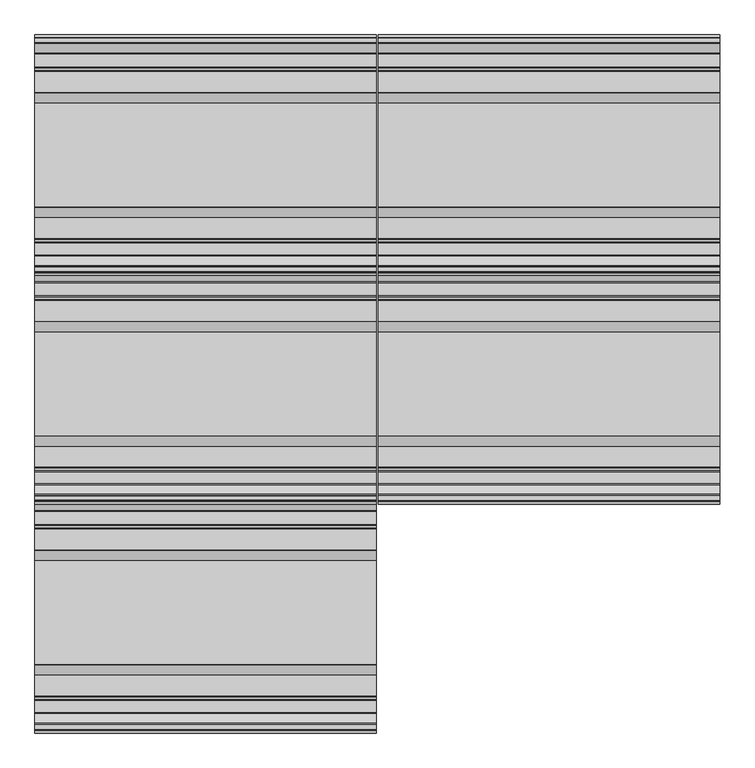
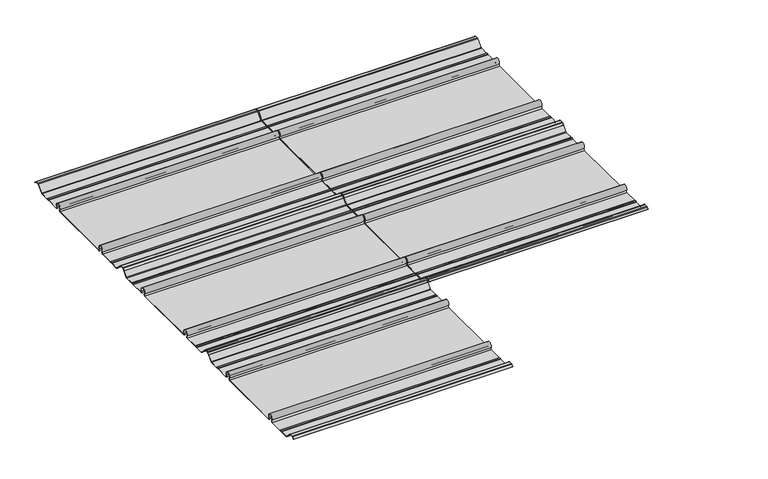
"""IFC4 building model written with IfcOpenShell, lengths in millimetres: proxy geometry, Xlath : Xlath."""

from ifc_helpers import new_model, si_unit, point, frame, frame_2d, origin, place, context, project, spatial, polyline, circle_curve, trimmed, segment, composite_curve, outline, extrude, source, transform, mapped, element, save


def generic_models_b2bb9b70(model_context):
    return source(origin(), model_context, "Body", "SweptSolid", [
        extrude(outline(composite_curve([segment(polyline([(-2848.821536, 17.692427), (-2844.8, 13.8209287), (-2845.3628134, 13.2581153), (-2849.6173305, 17.3539026)]), True, "CONTINUOUS"), segment(trimmed(circle_curve(frame_2d((-2851.4934261, 15.4051)), 2.7051), [point((-2849.6173305, 17.3539026))], [point((-2851.4934261, 18.1102))], True, "CARTESIAN"), True, "CONTINUOUS"), segment(polyline([(-2851.4934261, 18.1102), (-2858.6817457, 18.1102)]), True, "CONTINUOUS"), segment(trimmed(circle_curve(frame_2d((-2858.6817457, 15.4051)), 2.7051), [point((-2858.6817457, 18.1102))], [point((-2860.6059623, 17.3064039))], True, "CARTESIAN"), True, "CONTINUOUS"), segment(polyline([(-2860.6059623, 17.3064039), (-2876.7741011, 0.9434226)]), True, "CONTINUOUS"), segment(trimmed(circle_curve(frame_2d((-2879.0325712, 3.175)), 3.175), [point((-2876.7741011, 0.9434226))], [point((-2879.0325712, 0.0))], False, "CARTESIAN"), True, "CONTINUOUS"), segment(polyline([(-2879.0325712, 0.0), (-2902.1486405, 0.0)]), True, "CONTINUOUS"), segment(trimmed(circle_curve(frame_2d((-2902.1486405, 3.175)), 3.175), [point((-2902.1486405, 0.0))], [point((-2904.1419174, 0.70367))], False, "CARTESIAN"), True, "CONTINUOUS"), segment(trimmed(circle_curve(frame_2d((-2906.1351943, -1.7676601)), 3.175), [point((-2904.1419174, 0.70367))], [point((-2908.1284712, 0.70367))], True, "CARTESIAN"), True, "CONTINUOUS"), segment(trimmed(circle_curve(frame_2d((-2910.1217481, 3.175)), 3.175), [point((-2908.1284712, 0.70367))], [point((-2910.1217481, 0.0))], False, "CARTESIAN"), True, "CONTINUOUS"), segment(polyline([(-2910.1217481, 0.0), (-2947.39972, 0.0)]), True, "CONTINUOUS"), segment(trimmed(circle_curve(frame_2d((-2947.39972, 3.3362305)), 3.3362305), [point((-2947.39972, 0.0))], [point((-2950.0911698, 5.3076593))], False, "CARTESIAN"), True, "CONTINUOUS"), segment(trimmed(circle_curve(frame_2d((-2956.6031627, 10.0775533)), 8.0720469), [point((-2950.0911698, 5.3076593))], [point((-2963.1151555, 5.3076593))], True, "CARTESIAN"), True, "CONTINUOUS"), segment(trimmed(circle_curve(frame_2d((-2965.8066054, 3.3362305)), 3.3362305), [point((-2963.1151555, 5.3076593))], [point((-2965.8066054, 0.0))], False, "CARTESIAN"), True, "CONTINUOUS"), segment(polyline([(-2965.8066054, 0.0), (-3150.8308946, 0.0)]), True, "CONTINUOUS"), segment(trimmed(circle_curve(frame_2d((-3150.8308946, 3.3362305)), 3.3362305), [point((-3150.8308946, 0.0))], [point((-3153.5223445, 5.3076593))], False, "CARTESIAN"), True, "CONTINUOUS"), segment(trimmed(circle_curve(frame_2d((-3160.0343373, 10.0775533)), 8.0720469), [point((-3153.5223445, 5.3076593))], [point((-3166.5463302, 5.3076593))], True, "CARTESIAN"), True, "CONTINUOUS"), segment(trimmed(circle_curve(frame_2d((-3169.23778, 3.3362305)), 3.3362305), [point((-3166.5463302, 5.3076593))], [point((-3169.23778, 0.0))], False, "CARTESIAN"), True, "CONTINUOUS"), segment(polyline([(-3169.23778, 0.0), (-3206.5157519, 0.0)]), True, "CONTINUOUS"), segment(trimmed(circle_curve(frame_2d((-3206.5157519, 3.175)), 3.175), [point((-3206.5157519, 0.0))], [point((-3208.5090288, 0.70367))], False, "CARTESIAN"), True, "CONTINUOUS"), segment(trimmed(circle_curve(frame_2d((-3210.5023057, -1.7676601)), 3.175), [point((-3208.5090288, 0.70367))], [point((-3212.4955826, 0.70367))], True, "CARTESIAN"), True, "CONTINUOUS"), segment(trimmed(circle_curve(frame_2d((-3214.4888595, 3.175)), 3.175), [point((-3212.4955826, 0.70367))], [point((-3214.4888595, 0.0))], False, "CARTESIAN"), True, "CONTINUOUS"), segment(polyline([(-3214.4888595, 0.0), (-3235.8183557, 0.0)]), True, "CONTINUOUS"), segment(trimmed(circle_curve(frame_2d((-3235.8183557, 3.175)), 3.175), [point((-3235.8183557, 0.0))], [point((-3238.0768259, 0.9434226))], False, "CARTESIAN"), True, "CONTINUOUS"), segment(polyline([(-3238.0768259, 0.9434226), (-3254.7092693, 17.7763039)]), True, "CONTINUOUS"), segment(trimmed(circle_curve(frame_2d((-3256.6334859, 15.875)), 2.7051), [point((-3254.7092693, 17.7763039))], [point((-3256.6334859, 18.5801))], True, "CARTESIAN"), True, "CONTINUOUS"), segment(polyline([(-3256.6334859, 18.5801), (-3265.1440739, 18.5801)]), True, "CONTINUOUS"), segment(trimmed(circle_curve(frame_2d((-3265.1440739, 15.875)), 2.7051), [point((-3265.1440739, 18.5801))], [point((-3267.0201695, 17.8238026))], True, "CARTESIAN"), True, "CONTINUOUS"), segment(polyline([(-3267.0201695, 17.8238026), (-3271.2855845, 13.717524), (-3271.8483979, 14.2803374), (-3267.815964, 18.162327)]), True, "CONTINUOUS"), segment(trimmed(circle_curve(frame_2d((-3265.6139739, 15.875)), 3.175), [point((-3267.815964, 18.162327))], [point((-3265.6139739, 19.05))], False, "CARTESIAN"), True, "CONTINUOUS"), segment(polyline([(-3265.6139739, 19.05), (-3256.6334859, 19.05)]), True, "CONTINUOUS"), segment(trimmed(circle_curve(frame_2d((-3256.6334859, 15.875)), 3.175), [point((-3256.6334859, 19.05))], [point((-3254.3750157, 18.1065774))], False, "CARTESIAN"), True, "CONTINUOUS"), segment(polyline([(-3254.3750157, 18.1065774), (-3237.7425723, 1.2736961)]), True, "CONTINUOUS"), segment(trimmed(circle_curve(frame_2d((-3235.8183557, 3.175)), 2.7051), [point((-3237.7425723, 1.2736961))], [point((-3235.8183557, 0.4699))], True, "CARTESIAN"), True, "CONTINUOUS"), segment(polyline([(-3235.8183557, 0.4699), (-3214.6514296, 0.4699)]), True, "CONTINUOUS"), segment(trimmed(circle_curve(frame_2d((-3214.6514296, 3.6449)), 3.175), [point((-3214.6514296, 0.4699))], [point((-3212.7198077, 1.1250862))], True, "CARTESIAN"), True, "CONTINUOUS"), segment(trimmed(circle_curve(frame_2d((-3210.5023057, -1.7676601)), 3.6449), [point((-3212.7198077, 1.1250862))], [point((-3208.2848037, 1.1250862))], False, "CARTESIAN"), True, "CONTINUOUS"), segment(trimmed(circle_curve(frame_2d((-3206.3531818, 3.6449)), 3.175), [point((-3208.2848037, 1.1250862))], [point((-3206.3531818, 0.4699))], True, "CARTESIAN"), True, "CONTINUOUS"), segment(polyline([(-3206.3531818, 0.4699), (-3169.23778, 0.4699)]), True, "CONTINUOUS"), segment(trimmed(circle_curve(frame_2d((-3169.23778, 3.3362305)), 2.8663305), [point((-3169.23778, 0.4699))], [point((-3166.9254144, 5.0299883))], True, "CARTESIAN"), True, "CONTINUOUS"), segment(trimmed(circle_curve(frame_2d((-3160.0343373, 10.0775533)), 8.5419469), [point((-3166.9254144, 5.0299883))], [point((-3153.1432603, 5.0299883))], False, "CARTESIAN"), True, "CONTINUOUS"), segment(trimmed(circle_curve(frame_2d((-3150.8308946, 3.3362305)), 2.8663305), [point((-3153.1432603, 5.0299883))], [point((-3150.8308946, 0.4699))], True, "CARTESIAN"), True, "CONTINUOUS"), segment(polyline([(-3150.8308946, 0.4699), (-2965.8066054, 0.4699)]), True, "CONTINUOUS"), segment(trimmed(circle_curve(frame_2d((-2965.8066054, 3.3362305)), 2.8663305), [point((-2965.8066054, 0.4699))], [point((-2963.4942397, 5.0299883))], True, "CARTESIAN"), True, "CONTINUOUS"), segment(trimmed(circle_curve(frame_2d((-2956.6031627, 10.0775533)), 8.5419469), [point((-2963.4942397, 5.0299883))], [point((-2949.7120856, 5.0299883))], False, "CARTESIAN"), True, "CONTINUOUS"), segment(trimmed(circle_curve(frame_2d((-2947.39972, 3.3362305)), 2.8663305), [point((-2949.7120856, 5.0299883))], [point((-2947.39972, 0.4699))], True, "CARTESIAN"), True, "CONTINUOUS"), segment(polyline([(-2947.39972, 0.4699), (-2910.2843182, 0.4699)]), True, "CONTINUOUS"), segment(trimmed(circle_curve(frame_2d((-2910.2843182, 3.6449)), 3.175), [point((-2910.2843182, 0.4699))], [point((-2908.3526963, 1.1250862))], True, "CARTESIAN"), True, "CONTINUOUS"), segment(trimmed(circle_curve(frame_2d((-2906.1351943, -1.7676601)), 3.6449), [point((-2908.3526963, 1.1250862))], [point((-2903.9176923, 1.1250862))], False, "CARTESIAN"), True, "CONTINUOUS"), segment(trimmed(circle_curve(frame_2d((-2901.9860704, 3.6449)), 3.175), [point((-2903.9176923, 1.1250862))], [point((-2901.9860704, 0.4699))], True, "CARTESIAN"), True, "CONTINUOUS"), segment(polyline([(-2901.9860704, 0.4699), (-2879.0325712, 0.4699)]), True, "CONTINUOUS"), segment(trimmed(circle_curve(frame_2d((-2879.0325712, 3.175)), 2.7051), [point((-2879.0325712, 0.4699))], [point((-2877.1083547, 1.2736961))], True, "CARTESIAN"), True, "CONTINUOUS"), segment(polyline([(-2877.1083547, 1.2736961), (-2860.9402159, 17.6366774)]), True, "CONTINUOUS"), segment(trimmed(circle_curve(frame_2d((-2858.6817457, 15.4051)), 3.175), [point((-2860.9402159, 17.6366774))], [point((-2858.6817457, 18.5801))], False, "CARTESIAN"), True, "CONTINUOUS"), segment(polyline([(-2858.6817457, 18.5801), (-2851.0235261, 18.5801)]), True, "CONTINUOUS"), segment(trimmed(circle_curve(frame_2d((-2851.0235261, 15.4051)), 3.175), [point((-2851.0235261, 18.5801))], [point((-2848.821536, 17.692427))], False, "CARTESIAN"), True, "CONTINUOUS")], self_intersect=False)), frame((0.0, 0.0, 0.0), z_axis=(1.0, 0.0, 0.0), x_axis=(0.0, 1.0, 0.0)), (0.0, 0.0, 1.0), 606.425),
        extrude(outline(composite_curve([segment(polyline([(-2442.421536, 17.692427), (-2438.4, 13.8209287), (-2438.9628134, 13.2581153), (-2443.2173305, 17.3539026)]), True, "CONTINUOUS"), segment(trimmed(circle_curve(frame_2d((-2445.0934261, 15.4051)), 2.7051), [point((-2443.2173305, 17.3539026))], [point((-2445.0934261, 18.1102))], True, "CARTESIAN"), True, "CONTINUOUS"), segment(polyline([(-2445.0934261, 18.1102), (-2452.2817457, 18.1102)]), True, "CONTINUOUS"), segment(trimmed(circle_curve(frame_2d((-2452.2817457, 15.4051)), 2.7051), [point((-2452.2817457, 18.1102))], [point((-2454.2059623, 17.3064039))], True, "CARTESIAN"), True, "CONTINUOUS"), segment(polyline([(-2454.2059623, 17.3064039), (-2470.3741011, 0.9434226)]), True, "CONTINUOUS"), segment(trimmed(circle_curve(frame_2d((-2472.6325712, 3.175)), 3.175), [point((-2470.3741011, 0.9434226))], [point((-2472.6325712, 0.0))], False, "CARTESIAN"), True, "CONTINUOUS"), segment(polyline([(-2472.6325712, 0.0), (-2495.7486405, 0.0)]), True, "CONTINUOUS"), segment(trimmed(circle_curve(frame_2d((-2495.7486405, 3.175)), 3.175), [point((-2495.7486405, 0.0))], [point((-2497.7419174, 0.70367))], False, "CARTESIAN"), True, "CONTINUOUS"), segment(trimmed(circle_curve(frame_2d((-2499.7351943, -1.7676601)), 3.175), [point((-2497.7419174, 0.70367))], [point((-2501.7284712, 0.70367))], True, "CARTESIAN"), True, "CONTINUOUS"), segment(trimmed(circle_curve(frame_2d((-2503.7217481, 3.175)), 3.175), [point((-2501.7284712, 0.70367))], [point((-2503.7217481, 0.0))], False, "CARTESIAN"), True, "CONTINUOUS"), segment(polyline([(-2503.7217481, 0.0), (-2540.99972, 0.0)]), True, "CONTINUOUS"), segment(trimmed(circle_curve(frame_2d((-2540.99972, 3.3362305)), 3.3362305), [point((-2540.99972, 0.0))], [point((-2543.6911698, 5.3076593))], False, "CARTESIAN"), True, "CONTINUOUS"), segment(trimmed(circle_curve(frame_2d((-2550.2031627, 10.0775533)), 8.0720469), [point((-2543.6911698, 5.3076593))], [point((-2556.7151555, 5.3076593))], True, "CARTESIAN"), True, "CONTINUOUS"), segment(trimmed(circle_curve(frame_2d((-2559.4066054, 3.3362305)), 3.3362305), [point((-2556.7151555, 5.3076593))], [point((-2559.4066054, 0.0))], False, "CARTESIAN"), True, "CONTINUOUS"), segment(polyline([(-2559.4066054, 0.0), (-2744.4308946, 0.0)]), True, "CONTINUOUS"), segment(trimmed(circle_curve(frame_2d((-2744.4308946, 3.3362305)), 3.3362305), [point((-2744.4308946, 0.0))], [point((-2747.1223445, 5.3076593))], False, "CARTESIAN"), True, "CONTINUOUS"), segment(trimmed(circle_curve(frame_2d((-2753.6343373, 10.0775533)), 8.0720469), [point((-2747.1223445, 5.3076593))], [point((-2760.1463302, 5.3076593))], True, "CARTESIAN"), True, "CONTINUOUS"), segment(trimmed(circle_curve(frame_2d((-2762.83778, 3.3362305)), 3.3362305), [point((-2760.1463302, 5.3076593))], [point((-2762.83778, 0.0))], False, "CARTESIAN"), True, "CONTINUOUS"), segment(polyline([(-2762.83778, 0.0), (-2800.1157519, 0.0)]), True, "CONTINUOUS"), segment(trimmed(circle_curve(frame_2d((-2800.1157519, 3.175)), 3.175), [point((-2800.1157519, 0.0))], [point((-2802.1090288, 0.70367))], False, "CARTESIAN"), True, "CONTINUOUS"), segment(trimmed(circle_curve(frame_2d((-2804.1023057, -1.7676601)), 3.175), [point((-2802.1090288, 0.70367))], [point((-2806.0955826, 0.70367))], True, "CARTESIAN"), True, "CONTINUOUS"), segment(trimmed(circle_curve(frame_2d((-2808.0888595, 3.175)), 3.175), [point((-2806.0955826, 0.70367))], [point((-2808.0888595, 0.0))], False, "CARTESIAN"), True, "CONTINUOUS"), segment(polyline([(-2808.0888595, 0.0), (-2829.4183557, 0.0)]), True, "CONTINUOUS"), segment(trimmed(circle_curve(frame_2d((-2829.4183557, 3.175)), 3.175), [point((-2829.4183557, 0.0))], [point((-2831.6768259, 0.9434226))], False, "CARTESIAN"), True, "CONTINUOUS"), segment(polyline([(-2831.6768259, 0.9434226), (-2848.3092693, 17.7763039)]), True, "CONTINUOUS"), segment(trimmed(circle_curve(frame_2d((-2850.2334859, 15.875)), 2.7051), [point((-2848.3092693, 17.7763039))], [point((-2850.2334859, 18.5801))], True, "CARTESIAN"), True, "CONTINUOUS"), segment(polyline([(-2850.2334859, 18.5801), (-2858.7440739, 18.5801)]), True, "CONTINUOUS"), segment(trimmed(circle_curve(frame_2d((-2858.7440739, 15.875)), 2.7051), [point((-2858.7440739, 18.5801))], [point((-2860.6201695, 17.8238026))], True, "CARTESIAN"), True, "CONTINUOUS"), segment(polyline([(-2860.6201695, 17.8238026), (-2864.8855845, 13.717524), (-2865.4483979, 14.2803374), (-2861.415964, 18.162327)]), True, "CONTINUOUS"), segment(trimmed(circle_curve(frame_2d((-2859.2139739, 15.875)), 3.175), [point((-2861.415964, 18.162327))], [point((-2859.2139739, 19.05))], False, "CARTESIAN"), True, "CONTINUOUS"), segment(polyline([(-2859.2139739, 19.05), (-2850.2334859, 19.05)]), True, "CONTINUOUS"), segment(trimmed(circle_curve(frame_2d((-2850.2334859, 15.875)), 3.175), [point((-2850.2334859, 19.05))], [point((-2847.9750157, 18.1065774))], False, "CARTESIAN"), True, "CONTINUOUS"), segment(polyline([(-2847.9750157, 18.1065774), (-2831.3425723, 1.2736961)]), True, "CONTINUOUS"), segment(trimmed(circle_curve(frame_2d((-2829.4183557, 3.175)), 2.7051), [point((-2831.3425723, 1.2736961))], [point((-2829.4183557, 0.4699))], True, "CARTESIAN"), True, "CONTINUOUS"), segment(polyline([(-2829.4183557, 0.4699), (-2808.2514296, 0.4699)]), True, "CONTINUOUS"), segment(trimmed(circle_curve(frame_2d((-2808.2514296, 3.6449)), 3.175), [point((-2808.2514296, 0.4699))], [point((-2806.3198077, 1.1250862))], True, "CARTESIAN"), True, "CONTINUOUS"), segment(trimmed(circle_curve(frame_2d((-2804.1023057, -1.7676601)), 3.6449), [point((-2806.3198077, 1.1250862))], [point((-2801.8848037, 1.1250862))], False, "CARTESIAN"), True, "CONTINUOUS"), segment(trimmed(circle_curve(frame_2d((-2799.9531818, 3.6449)), 3.175), [point((-2801.8848037, 1.1250862))], [point((-2799.9531818, 0.4699))], True, "CARTESIAN"), True, "CONTINUOUS"), segment(polyline([(-2799.9531818, 0.4699), (-2762.83778, 0.4699)]), True, "CONTINUOUS"), segment(trimmed(circle_curve(frame_2d((-2762.83778, 3.3362305)), 2.8663305), [point((-2762.83778, 0.4699))], [point((-2760.5254144, 5.0299883))], True, "CARTESIAN"), True, "CONTINUOUS"), segment(trimmed(circle_curve(frame_2d((-2753.6343373, 10.0775533)), 8.5419469), [point((-2760.5254144, 5.0299883))], [point((-2746.7432603, 5.0299883))], False, "CARTESIAN"), True, "CONTINUOUS"), segment(trimmed(circle_curve(frame_2d((-2744.4308946, 3.3362305)), 2.8663305), [point((-2746.7432603, 5.0299883))], [point((-2744.4308946, 0.4699))], True, "CARTESIAN"), True, "CONTINUOUS"), segment(polyline([(-2744.4308946, 0.4699), (-2559.4066054, 0.4699)]), True, "CONTINUOUS"), segment(trimmed(circle_curve(frame_2d((-2559.4066054, 3.3362305)), 2.8663305), [point((-2559.4066054, 0.4699))], [point((-2557.0942397, 5.0299883))], True, "CARTESIAN"), True, "CONTINUOUS"), segment(trimmed(circle_curve(frame_2d((-2550.2031627, 10.0775533)), 8.5419469), [point((-2557.0942397, 5.0299883))], [point((-2543.3120856, 5.0299883))], False, "CARTESIAN"), True, "CONTINUOUS"), segment(trimmed(circle_curve(frame_2d((-2540.99972, 3.3362305)), 2.8663305), [point((-2543.3120856, 5.0299883))], [point((-2540.99972, 0.4699))], True, "CARTESIAN"), True, "CONTINUOUS"), segment(polyline([(-2540.99972, 0.4699), (-2503.8843182, 0.4699)]), True, "CONTINUOUS"), segment(trimmed(circle_curve(frame_2d((-2503.8843182, 3.6449)), 3.175), [point((-2503.8843182, 0.4699))], [point((-2501.9526963, 1.1250862))], True, "CARTESIAN"), True, "CONTINUOUS"), segment(trimmed(circle_curve(frame_2d((-2499.7351943, -1.7676601)), 3.6449), [point((-2501.9526963, 1.1250862))], [point((-2497.5176923, 1.1250862))], False, "CARTESIAN"), True, "CONTINUOUS"), segment(trimmed(circle_curve(frame_2d((-2495.5860704, 3.6449)), 3.175), [point((-2497.5176923, 1.1250862))], [point((-2495.5860704, 0.4699))], True, "CARTESIAN"), True, "CONTINUOUS"), segment(polyline([(-2495.5860704, 0.4699), (-2472.6325712, 0.4699)]), True, "CONTINUOUS"), segment(trimmed(circle_curve(frame_2d((-2472.6325712, 3.175)), 2.7051), [point((-2472.6325712, 0.4699))], [point((-2470.7083547, 1.2736961))], True, "CARTESIAN"), True, "CONTINUOUS"), segment(polyline([(-2470.7083547, 1.2736961), (-2454.5402159, 17.6366774)]), True, "CONTINUOUS"), segment(trimmed(circle_curve(frame_2d((-2452.2817457, 15.4051)), 3.175), [point((-2454.5402159, 17.6366774))], [point((-2452.2817457, 18.5801))], False, "CARTESIAN"), True, "CONTINUOUS"), segment(polyline([(-2452.2817457, 18.5801), (-2444.6235261, 18.5801)]), True, "CONTINUOUS"), segment(trimmed(circle_curve(frame_2d((-2444.6235261, 15.4051)), 3.175), [point((-2444.6235261, 18.5801))], [point((-2442.421536, 17.692427))], False, "CARTESIAN"), True, "CONTINUOUS")], self_intersect=False)), frame((609.6, 0.0, 0.0), z_axis=(1.0, 0.0, 0.0), x_axis=(0.0, 1.0, 0.0)), (0.0, 0.0, 1.0), 606.425),
        extrude(outline(composite_curve([segment(polyline([(-2442.421536, 17.692427), (-2438.4, 13.8209287), (-2438.9628134, 13.2581153), (-2443.2173305, 17.3539026)]), True, "CONTINUOUS"), segment(trimmed(circle_curve(frame_2d((-2445.0934261, 15.4051)), 2.7051), [point((-2443.2173305, 17.3539026))], [point((-2445.0934261, 18.1102))], True, "CARTESIAN"), True, "CONTINUOUS"), segment(polyline([(-2445.0934261, 18.1102), (-2452.2817457, 18.1102)]), True, "CONTINUOUS"), segment(trimmed(circle_curve(frame_2d((-2452.2817457, 15.4051)), 2.7051), [point((-2452.2817457, 18.1102))], [point((-2454.2059623, 17.3064039))], True, "CARTESIAN"), True, "CONTINUOUS"), segment(polyline([(-2454.2059623, 17.3064039), (-2470.3741011, 0.9434226)]), True, "CONTINUOUS"), segment(trimmed(circle_curve(frame_2d((-2472.6325712, 3.175)), 3.175), [point((-2470.3741011, 0.9434226))], [point((-2472.6325712, 0.0))], False, "CARTESIAN"), True, "CONTINUOUS"), segment(polyline([(-2472.6325712, 0.0), (-2495.7486405, 0.0)]), True, "CONTINUOUS"), segment(trimmed(circle_curve(frame_2d((-2495.7486405, 3.175)), 3.175), [point((-2495.7486405, 0.0))], [point((-2497.7419174, 0.70367))], False, "CARTESIAN"), True, "CONTINUOUS"), segment(trimmed(circle_curve(frame_2d((-2499.7351943, -1.7676601)), 3.175), [point((-2497.7419174, 0.70367))], [point((-2501.7284712, 0.70367))], True, "CARTESIAN"), True, "CONTINUOUS"), segment(trimmed(circle_curve(frame_2d((-2503.7217481, 3.175)), 3.175), [point((-2501.7284712, 0.70367))], [point((-2503.7217481, 0.0))], False, "CARTESIAN"), True, "CONTINUOUS"), segment(polyline([(-2503.7217481, 0.0), (-2540.99972, 0.0)]), True, "CONTINUOUS"), segment(trimmed(circle_curve(frame_2d((-2540.99972, 3.3362305)), 3.3362305), [point((-2540.99972, 0.0))], [point((-2543.6911698, 5.3076593))], False, "CARTESIAN"), True, "CONTINUOUS"), segment(trimmed(circle_curve(frame_2d((-2550.2031627, 10.0775533)), 8.0720469), [point((-2543.6911698, 5.3076593))], [point((-2556.7151555, 5.3076593))], True, "CARTESIAN"), True, "CONTINUOUS"), segment(trimmed(circle_curve(frame_2d((-2559.4066054, 3.3362305)), 3.3362305), [point((-2556.7151555, 5.3076593))], [point((-2559.4066054, 0.0))], False, "CARTESIAN"), True, "CONTINUOUS"), segment(polyline([(-2559.4066054, 0.0), (-2744.4308946, 0.0)]), True, "CONTINUOUS"), segment(trimmed(circle_curve(frame_2d((-2744.4308946, 3.3362305)), 3.3362305), [point((-2744.4308946, 0.0))], [point((-2747.1223445, 5.3076593))], False, "CARTESIAN"), True, "CONTINUOUS"), segment(trimmed(circle_curve(frame_2d((-2753.6343373, 10.0775533)), 8.0720469), [point((-2747.1223445, 5.3076593))], [point((-2760.1463302, 5.3076593))], True, "CARTESIAN"), True, "CONTINUOUS"), segment(trimmed(circle_curve(frame_2d((-2762.83778, 3.3362305)), 3.3362305), [point((-2760.1463302, 5.3076593))], [point((-2762.83778, 0.0))], False, "CARTESIAN"), True, "CONTINUOUS"), segment(polyline([(-2762.83778, 0.0), (-2800.1157519, 0.0)]), True, "CONTINUOUS"), segment(trimmed(circle_curve(frame_2d((-2800.1157519, 3.175)), 3.175), [point((-2800.1157519, 0.0))], [point((-2802.1090288, 0.70367))], False, "CARTESIAN"), True, "CONTINUOUS"), segment(trimmed(circle_curve(frame_2d((-2804.1023057, -1.7676601)), 3.175), [point((-2802.1090288, 0.70367))], [point((-2806.0955826, 0.70367))], True, "CARTESIAN"), True, "CONTINUOUS"), segment(trimmed(circle_curve(frame_2d((-2808.0888595, 3.175)), 3.175), [point((-2806.0955826, 0.70367))], [point((-2808.0888595, 0.0))], False, "CARTESIAN"), True, "CONTINUOUS"), segment(polyline([(-2808.0888595, 0.0), (-2829.4183557, 0.0)]), True, "CONTINUOUS"), segment(trimmed(circle_curve(frame_2d((-2829.4183557, 3.175)), 3.175), [point((-2829.4183557, 0.0))], [point((-2831.6768259, 0.9434226))], False, "CARTESIAN"), True, "CONTINUOUS"), segment(polyline([(-2831.6768259, 0.9434226), (-2848.3092693, 17.7763039)]), True, "CONTINUOUS"), segment(trimmed(circle_curve(frame_2d((-2850.2334859, 15.875)), 2.7051), [point((-2848.3092693, 17.7763039))], [point((-2850.2334859, 18.5801))], True, "CARTESIAN"), True, "CONTINUOUS"), segment(polyline([(-2850.2334859, 18.5801), (-2858.7440739, 18.5801)]), True, "CONTINUOUS"), segment(trimmed(circle_curve(frame_2d((-2858.7440739, 15.875)), 2.7051), [point((-2858.7440739, 18.5801))], [point((-2860.6201695, 17.8238026))], True, "CARTESIAN"), True, "CONTINUOUS"), segment(polyline([(-2860.6201695, 17.8238026), (-2864.8855845, 13.717524), (-2865.4483979, 14.2803374), (-2861.415964, 18.162327)]), True, "CONTINUOUS"), segment(trimmed(circle_curve(frame_2d((-2859.2139739, 15.875)), 3.175), [point((-2861.415964, 18.162327))], [point((-2859.2139739, 19.05))], False, "CARTESIAN"), True, "CONTINUOUS"), segment(polyline([(-2859.2139739, 19.05), (-2850.2334859, 19.05)]), True, "CONTINUOUS"), segment(trimmed(circle_curve(frame_2d((-2850.2334859, 15.875)), 3.175), [point((-2850.2334859, 19.05))], [point((-2847.9750157, 18.1065774))], False, "CARTESIAN"), True, "CONTINUOUS"), segment(polyline([(-2847.9750157, 18.1065774), (-2831.3425723, 1.2736961)]), True, "CONTINUOUS"), segment(trimmed(circle_curve(frame_2d((-2829.4183557, 3.175)), 2.7051), [point((-2831.3425723, 1.2736961))], [point((-2829.4183557, 0.4699))], True, "CARTESIAN"), True, "CONTINUOUS"), segment(polyline([(-2829.4183557, 0.4699), (-2808.2514296, 0.4699)]), True, "CONTINUOUS"), segment(trimmed(circle_curve(frame_2d((-2808.2514296, 3.6449)), 3.175), [point((-2808.2514296, 0.4699))], [point((-2806.3198077, 1.1250862))], True, "CARTESIAN"), True, "CONTINUOUS"), segment(trimmed(circle_curve(frame_2d((-2804.1023057, -1.7676601)), 3.6449), [point((-2806.3198077, 1.1250862))], [point((-2801.8848037, 1.1250862))], False, "CARTESIAN"), True, "CONTINUOUS"), segment(trimmed(circle_curve(frame_2d((-2799.9531818, 3.6449)), 3.175), [point((-2801.8848037, 1.1250862))], [point((-2799.9531818, 0.4699))], True, "CARTESIAN"), True, "CONTINUOUS"), segment(polyline([(-2799.9531818, 0.4699), (-2762.83778, 0.4699)]), True, "CONTINUOUS"), segment(trimmed(circle_curve(frame_2d((-2762.83778, 3.3362305)), 2.8663305), [point((-2762.83778, 0.4699))], [point((-2760.5254144, 5.0299883))], True, "CARTESIAN"), True, "CONTINUOUS"), segment(trimmed(circle_curve(frame_2d((-2753.6343373, 10.0775533)), 8.5419469), [point((-2760.5254144, 5.0299883))], [point((-2746.7432603, 5.0299883))], False, "CARTESIAN"), True, "CONTINUOUS"), segment(trimmed(circle_curve(frame_2d((-2744.4308946, 3.3362305)), 2.8663305), [point((-2746.7432603, 5.0299883))], [point((-2744.4308946, 0.4699))], True, "CARTESIAN"), True, "CONTINUOUS"), segment(polyline([(-2744.4308946, 0.4699), (-2559.4066054, 0.4699)]), True, "CONTINUOUS"), segment(trimmed(circle_curve(frame_2d((-2559.4066054, 3.3362305)), 2.8663305), [point((-2559.4066054, 0.4699))], [point((-2557.0942397, 5.0299883))], True, "CARTESIAN"), True, "CONTINUOUS"), segment(trimmed(circle_curve(frame_2d((-2550.2031627, 10.0775533)), 8.5419469), [point((-2557.0942397, 5.0299883))], [point((-2543.3120856, 5.0299883))], False, "CARTESIAN"), True, "CONTINUOUS"), segment(trimmed(circle_curve(frame_2d((-2540.99972, 3.3362305)), 2.8663305), [point((-2543.3120856, 5.0299883))], [point((-2540.99972, 0.4699))], True, "CARTESIAN"), True, "CONTINUOUS"), segment(polyline([(-2540.99972, 0.4699), (-2503.8843182, 0.4699)]), True, "CONTINUOUS"), segment(trimmed(circle_curve(frame_2d((-2503.8843182, 3.6449)), 3.175), [point((-2503.8843182, 0.4699))], [point((-2501.9526963, 1.1250862))], True, "CARTESIAN"), True, "CONTINUOUS"), segment(trimmed(circle_curve(frame_2d((-2499.7351943, -1.7676601)), 3.6449), [point((-2501.9526963, 1.1250862))], [point((-2497.5176923, 1.1250862))], False, "CARTESIAN"), True, "CONTINUOUS"), segment(trimmed(circle_curve(frame_2d((-2495.5860704, 3.6449)), 3.175), [point((-2497.5176923, 1.1250862))], [point((-2495.5860704, 0.4699))], True, "CARTESIAN"), True, "CONTINUOUS"), segment(polyline([(-2495.5860704, 0.4699), (-2472.6325712, 0.4699)]), True, "CONTINUOUS"), segment(trimmed(circle_curve(frame_2d((-2472.6325712, 3.175)), 2.7051), [point((-2472.6325712, 0.4699))], [point((-2470.7083547, 1.2736961))], True, "CARTESIAN"), True, "CONTINUOUS"), segment(polyline([(-2470.7083547, 1.2736961), (-2454.5402159, 17.6366774)]), True, "CONTINUOUS"), segment(trimmed(circle_curve(frame_2d((-2452.2817457, 15.4051)), 3.175), [point((-2454.5402159, 17.6366774))], [point((-2452.2817457, 18.5801))], False, "CARTESIAN"), True, "CONTINUOUS"), segment(polyline([(-2452.2817457, 18.5801), (-2444.6235261, 18.5801)]), True, "CONTINUOUS"), segment(trimmed(circle_curve(frame_2d((-2444.6235261, 15.4051)), 3.175), [point((-2444.6235261, 18.5801))], [point((-2442.421536, 17.692427))], False, "CARTESIAN"), True, "CONTINUOUS")], self_intersect=False)), frame((0.0, 0.0, 0.0), z_axis=(1.0, 0.0, 0.0), x_axis=(0.0, 1.0, 0.0)), (0.0, 0.0, 1.0), 606.425),
        extrude(outline(composite_curve([segment(polyline([(-2036.021536, 17.692427), (-2032.0, 13.8209287), (-2032.5628134, 13.2581153), (-2036.8173305, 17.3539026)]), True, "CONTINUOUS"), segment(trimmed(circle_curve(frame_2d((-2038.6934261, 15.4051)), 2.7051), [point((-2036.8173305, 17.3539026))], [point((-2038.6934261, 18.1102))], True, "CARTESIAN"), True, "CONTINUOUS"), segment(polyline([(-2038.6934261, 18.1102), (-2045.8817457, 18.1102)]), True, "CONTINUOUS"), segment(trimmed(circle_curve(frame_2d((-2045.8817457, 15.4051)), 2.7051), [point((-2045.8817457, 18.1102))], [point((-2047.8059623, 17.3064039))], True, "CARTESIAN"), True, "CONTINUOUS"), segment(polyline([(-2047.8059623, 17.3064039), (-2063.9741011, 0.9434226)]), True, "CONTINUOUS"), segment(trimmed(circle_curve(frame_2d((-2066.2325712, 3.175)), 3.175), [point((-2063.9741011, 0.9434226))], [point((-2066.2325712, 0.0))], False, "CARTESIAN"), True, "CONTINUOUS"), segment(polyline([(-2066.2325712, 0.0), (-2089.3486405, 0.0)]), True, "CONTINUOUS"), segment(trimmed(circle_curve(frame_2d((-2089.3486405, 3.175)), 3.175), [point((-2089.3486405, 0.0))], [point((-2091.3419174, 0.70367))], False, "CARTESIAN"), True, "CONTINUOUS"), segment(trimmed(circle_curve(frame_2d((-2093.3351943, -1.7676601)), 3.175), [point((-2091.3419174, 0.70367))], [point((-2095.3284712, 0.70367))], True, "CARTESIAN"), True, "CONTINUOUS"), segment(trimmed(circle_curve(frame_2d((-2097.3217481, 3.175)), 3.175), [point((-2095.3284712, 0.70367))], [point((-2097.3217481, 0.0))], False, "CARTESIAN"), True, "CONTINUOUS"), segment(polyline([(-2097.3217481, 0.0), (-2134.59972, 0.0)]), True, "CONTINUOUS"), segment(trimmed(circle_curve(frame_2d((-2134.59972, 3.3362305)), 3.3362305), [point((-2134.59972, 0.0))], [point((-2137.2911698, 5.3076593))], False, "CARTESIAN"), True, "CONTINUOUS"), segment(trimmed(circle_curve(frame_2d((-2143.8031627, 10.0775533)), 8.0720469), [point((-2137.2911698, 5.3076593))], [point((-2150.3151555, 5.3076593))], True, "CARTESIAN"), True, "CONTINUOUS"), segment(trimmed(circle_curve(frame_2d((-2153.0066054, 3.3362305)), 3.3362305), [point((-2150.3151555, 5.3076593))], [point((-2153.0066054, 0.0))], False, "CARTESIAN"), True, "CONTINUOUS"), segment(polyline([(-2153.0066054, 0.0), (-2338.0308946, 0.0)]), True, "CONTINUOUS"), segment(trimmed(circle_curve(frame_2d((-2338.0308946, 3.3362305)), 3.3362305), [point((-2338.0308946, 0.0))], [point((-2340.7223445, 5.3076593))], False, "CARTESIAN"), True, "CONTINUOUS"), segment(trimmed(circle_curve(frame_2d((-2347.2343373, 10.0775533)), 8.0720469), [point((-2340.7223445, 5.3076593))], [point((-2353.7463302, 5.3076593))], True, "CARTESIAN"), True, "CONTINUOUS"), segment(trimmed(circle_curve(frame_2d((-2356.43778, 3.3362305)), 3.3362305), [point((-2353.7463302, 5.3076593))], [point((-2356.43778, 0.0))], False, "CARTESIAN"), True, "CONTINUOUS"), segment(polyline([(-2356.43778, 0.0), (-2393.7157519, 0.0)]), True, "CONTINUOUS"), segment(trimmed(circle_curve(frame_2d((-2393.7157519, 3.175)), 3.175), [point((-2393.7157519, 0.0))], [point((-2395.7090288, 0.70367))], False, "CARTESIAN"), True, "CONTINUOUS"), segment(trimmed(circle_curve(frame_2d((-2397.7023057, -1.7676601)), 3.175), [point((-2395.7090288, 0.70367))], [point((-2399.6955826, 0.70367))], True, "CARTESIAN"), True, "CONTINUOUS"), segment(trimmed(circle_curve(frame_2d((-2401.6888595, 3.175)), 3.175), [point((-2399.6955826, 0.70367))], [point((-2401.6888595, 0.0))], False, "CARTESIAN"), True, "CONTINUOUS"), segment(polyline([(-2401.6888595, 0.0), (-2423.0183557, 0.0)]), True, "CONTINUOUS"), segment(trimmed(circle_curve(frame_2d((-2423.0183557, 3.175)), 3.175), [point((-2423.0183557, 0.0))], [point((-2425.2768259, 0.9434226))], False, "CARTESIAN"), True, "CONTINUOUS"), segment(polyline([(-2425.2768259, 0.9434226), (-2441.9092693, 17.7763039)]), True, "CONTINUOUS"), segment(trimmed(circle_curve(frame_2d((-2443.8334859, 15.875)), 2.7051), [point((-2441.9092693, 17.7763039))], [point((-2443.8334859, 18.5801))], True, "CARTESIAN"), True, "CONTINUOUS"), segment(polyline([(-2443.8334859, 18.5801), (-2452.3440739, 18.5801)]), True, "CONTINUOUS"), segment(trimmed(circle_curve(frame_2d((-2452.3440739, 15.875)), 2.7051), [point((-2452.3440739, 18.5801))], [point((-2454.2201695, 17.8238026))], True, "CARTESIAN"), True, "CONTINUOUS"), segment(polyline([(-2454.2201695, 17.8238026), (-2458.4855845, 13.717524), (-2459.0483979, 14.2803374), (-2455.015964, 18.162327)]), True, "CONTINUOUS"), segment(trimmed(circle_curve(frame_2d((-2452.8139739, 15.875)), 3.175), [point((-2455.015964, 18.162327))], [point((-2452.8139739, 19.05))], False, "CARTESIAN"), True, "CONTINUOUS"), segment(polyline([(-2452.8139739, 19.05), (-2443.8334859, 19.05)]), True, "CONTINUOUS"), segment(trimmed(circle_curve(frame_2d((-2443.8334859, 15.875)), 3.175), [point((-2443.8334859, 19.05))], [point((-2441.5750157, 18.1065774))], False, "CARTESIAN"), True, "CONTINUOUS"), segment(polyline([(-2441.5750157, 18.1065774), (-2424.9425723, 1.2736961)]), True, "CONTINUOUS"), segment(trimmed(circle_curve(frame_2d((-2423.0183557, 3.175)), 2.7051), [point((-2424.9425723, 1.2736961))], [point((-2423.0183557, 0.4699))], True, "CARTESIAN"), True, "CONTINUOUS"), segment(polyline([(-2423.0183557, 0.4699), (-2401.8514296, 0.4699)]), True, "CONTINUOUS"), segment(trimmed(circle_curve(frame_2d((-2401.8514296, 3.6449)), 3.175), [point((-2401.8514296, 0.4699))], [point((-2399.9198077, 1.1250862))], True, "CARTESIAN"), True, "CONTINUOUS"), segment(trimmed(circle_curve(frame_2d((-2397.7023057, -1.7676601)), 3.6449), [point((-2399.9198077, 1.1250862))], [point((-2395.4848037, 1.1250862))], False, "CARTESIAN"), True, "CONTINUOUS"), segment(trimmed(circle_curve(frame_2d((-2393.5531818, 3.6449)), 3.175), [point((-2395.4848037, 1.1250862))], [point((-2393.5531818, 0.4699))], True, "CARTESIAN"), True, "CONTINUOUS"), segment(polyline([(-2393.5531818, 0.4699), (-2356.43778, 0.4699)]), True, "CONTINUOUS"), segment(trimmed(circle_curve(frame_2d((-2356.43778, 3.3362305)), 2.8663305), [point((-2356.43778, 0.4699))], [point((-2354.1254144, 5.0299883))], True, "CARTESIAN"), True, "CONTINUOUS"), segment(trimmed(circle_curve(frame_2d((-2347.2343373, 10.0775533)), 8.5419469), [point((-2354.1254144, 5.0299883))], [point((-2340.3432603, 5.0299883))], False, "CARTESIAN"), True, "CONTINUOUS"), segment(trimmed(circle_curve(frame_2d((-2338.0308946, 3.3362305)), 2.8663305), [point((-2340.3432603, 5.0299883))], [point((-2338.0308946, 0.4699))], True, "CARTESIAN"), True, "CONTINUOUS"), segment(polyline([(-2338.0308946, 0.4699), (-2153.0066054, 0.4699)]), True, "CONTINUOUS"), segment(trimmed(circle_curve(frame_2d((-2153.0066054, 3.3362305)), 2.8663305), [point((-2153.0066054, 0.4699))], [point((-2150.6942397, 5.0299883))], True, "CARTESIAN"), True, "CONTINUOUS"), segment(trimmed(circle_curve(frame_2d((-2143.8031627, 10.0775533)), 8.5419469), [point((-2150.6942397, 5.0299883))], [point((-2136.9120856, 5.0299883))], False, "CARTESIAN"), True, "CONTINUOUS"), segment(trimmed(circle_curve(frame_2d((-2134.59972, 3.3362305)), 2.8663305), [point((-2136.9120856, 5.0299883))], [point((-2134.59972, 0.4699))], True, "CARTESIAN"), True, "CONTINUOUS"), segment(polyline([(-2134.59972, 0.4699), (-2097.4843182, 0.4699)]), True, "CONTINUOUS"), segment(trimmed(circle_curve(frame_2d((-2097.4843182, 3.6449)), 3.175), [point((-2097.4843182, 0.4699))], [point((-2095.5526963, 1.1250862))], True, "CARTESIAN"), True, "CONTINUOUS"), segment(trimmed(circle_curve(frame_2d((-2093.3351943, -1.7676601)), 3.6449), [point((-2095.5526963, 1.1250862))], [point((-2091.1176923, 1.1250862))], False, "CARTESIAN"), True, "CONTINUOUS"), segment(trimmed(circle_curve(frame_2d((-2089.1860704, 3.6449)), 3.175), [point((-2091.1176923, 1.1250862))], [point((-2089.1860704, 0.4699))], True, "CARTESIAN"), True, "CONTINUOUS"), segment(polyline([(-2089.1860704, 0.4699), (-2066.2325712, 0.4699)]), True, "CONTINUOUS"), segment(trimmed(circle_curve(frame_2d((-2066.2325712, 3.175)), 2.7051), [point((-2066.2325712, 0.4699))], [point((-2064.3083547, 1.2736961))], True, "CARTESIAN"), True, "CONTINUOUS"), segment(polyline([(-2064.3083547, 1.2736961), (-2048.1402159, 17.6366774)]), True, "CONTINUOUS"), segment(trimmed(circle_curve(frame_2d((-2045.8817457, 15.4051)), 3.175), [point((-2048.1402159, 17.6366774))], [point((-2045.8817457, 18.5801))], False, "CARTESIAN"), True, "CONTINUOUS"), segment(polyline([(-2045.8817457, 18.5801), (-2038.2235261, 18.5801)]), True, "CONTINUOUS"), segment(trimmed(circle_curve(frame_2d((-2038.2235261, 15.4051)), 3.175), [point((-2038.2235261, 18.5801))], [point((-2036.021536, 17.692427))], False, "CARTESIAN"), True, "CONTINUOUS")], self_intersect=False)), frame((609.6, 0.0, 0.0), z_axis=(1.0, 0.0, 0.0), x_axis=(0.0, 1.0, 0.0)), (0.0, 0.0, 1.0), 606.425),
        extrude(outline(composite_curve([segment(polyline([(-2036.021536, 17.692427), (-2032.0, 13.8209287), (-2032.5628134, 13.2581153), (-2036.8173305, 17.3539026)]), True, "CONTINUOUS"), segment(trimmed(circle_curve(frame_2d((-2038.6934261, 15.4051)), 2.7051), [point((-2036.8173305, 17.3539026))], [point((-2038.6934261, 18.1102))], True, "CARTESIAN"), True, "CONTINUOUS"), segment(polyline([(-2038.6934261, 18.1102), (-2045.8817457, 18.1102)]), True, "CONTINUOUS"), segment(trimmed(circle_curve(frame_2d((-2045.8817457, 15.4051)), 2.7051), [point((-2045.8817457, 18.1102))], [point((-2047.8059623, 17.3064039))], True, "CARTESIAN"), True, "CONTINUOUS"), segment(polyline([(-2047.8059623, 17.3064039), (-2063.9741011, 0.9434226)]), True, "CONTINUOUS"), segment(trimmed(circle_curve(frame_2d((-2066.2325712, 3.175)), 3.175), [point((-2063.9741011, 0.9434226))], [point((-2066.2325712, 0.0))], False, "CARTESIAN"), True, "CONTINUOUS"), segment(polyline([(-2066.2325712, 0.0), (-2089.3486405, 0.0)]), True, "CONTINUOUS"), segment(trimmed(circle_curve(frame_2d((-2089.3486405, 3.175)), 3.175), [point((-2089.3486405, 0.0))], [point((-2091.3419174, 0.70367))], False, "CARTESIAN"), True, "CONTINUOUS"), segment(trimmed(circle_curve(frame_2d((-2093.3351943, -1.7676601)), 3.175), [point((-2091.3419174, 0.70367))], [point((-2095.3284712, 0.70367))], True, "CARTESIAN"), True, "CONTINUOUS"), segment(trimmed(circle_curve(frame_2d((-2097.3217481, 3.175)), 3.175), [point((-2095.3284712, 0.70367))], [point((-2097.3217481, 0.0))], False, "CARTESIAN"), True, "CONTINUOUS"), segment(polyline([(-2097.3217481, 0.0), (-2134.59972, 0.0)]), True, "CONTINUOUS"), segment(trimmed(circle_curve(frame_2d((-2134.59972, 3.3362305)), 3.3362305), [point((-2134.59972, 0.0))], [point((-2137.2911698, 5.3076593))], False, "CARTESIAN"), True, "CONTINUOUS"), segment(trimmed(circle_curve(frame_2d((-2143.8031627, 10.0775533)), 8.0720469), [point((-2137.2911698, 5.3076593))], [point((-2150.3151555, 5.3076593))], True, "CARTESIAN"), True, "CONTINUOUS"), segment(trimmed(circle_curve(frame_2d((-2153.0066054, 3.3362305)), 3.3362305), [point((-2150.3151555, 5.3076593))], [point((-2153.0066054, 0.0))], False, "CARTESIAN"), True, "CONTINUOUS"), segment(polyline([(-2153.0066054, 0.0), (-2338.0308946, 0.0)]), True, "CONTINUOUS"), segment(trimmed(circle_curve(frame_2d((-2338.0308946, 3.3362305)), 3.3362305), [point((-2338.0308946, 0.0))], [point((-2340.7223445, 5.3076593))], False, "CARTESIAN"), True, "CONTINUOUS"), segment(trimmed(circle_curve(frame_2d((-2347.2343373, 10.0775533)), 8.0720469), [point((-2340.7223445, 5.3076593))], [point((-2353.7463302, 5.3076593))], True, "CARTESIAN"), True, "CONTINUOUS"), segment(trimmed(circle_curve(frame_2d((-2356.43778, 3.3362305)), 3.3362305), [point((-2353.7463302, 5.3076593))], [point((-2356.43778, 0.0))], False, "CARTESIAN"), True, "CONTINUOUS"), segment(polyline([(-2356.43778, 0.0), (-2393.7157519, 0.0)]), True, "CONTINUOUS"), segment(trimmed(circle_curve(frame_2d((-2393.7157519, 3.175)), 3.175), [point((-2393.7157519, 0.0))], [point((-2395.7090288, 0.70367))], False, "CARTESIAN"), True, "CONTINUOUS"), segment(trimmed(circle_curve(frame_2d((-2397.7023057, -1.7676601)), 3.175), [point((-2395.7090288, 0.70367))], [point((-2399.6955826, 0.70367))], True, "CARTESIAN"), True, "CONTINUOUS"), segment(trimmed(circle_curve(frame_2d((-2401.6888595, 3.175)), 3.175), [point((-2399.6955826, 0.70367))], [point((-2401.6888595, 0.0))], False, "CARTESIAN"), True, "CONTINUOUS"), segment(polyline([(-2401.6888595, 0.0), (-2423.0183557, 0.0)]), True, "CONTINUOUS"), segment(trimmed(circle_curve(frame_2d((-2423.0183557, 3.175)), 3.175), [point((-2423.0183557, 0.0))], [point((-2425.2768259, 0.9434226))], False, "CARTESIAN"), True, "CONTINUOUS"), segment(polyline([(-2425.2768259, 0.9434226), (-2441.9092693, 17.7763039)]), True, "CONTINUOUS"), segment(trimmed(circle_curve(frame_2d((-2443.8334859, 15.875)), 2.7051), [point((-2441.9092693, 17.7763039))], [point((-2443.8334859, 18.5801))], True, "CARTESIAN"), True, "CONTINUOUS"), segment(polyline([(-2443.8334859, 18.5801), (-2452.3440739, 18.5801)]), True, "CONTINUOUS"), segment(trimmed(circle_curve(frame_2d((-2452.3440739, 15.875)), 2.7051), [point((-2452.3440739, 18.5801))], [point((-2454.2201695, 17.8238026))], True, "CARTESIAN"), True, "CONTINUOUS"), segment(polyline([(-2454.2201695, 17.8238026), (-2458.4855845, 13.717524), (-2459.0483979, 14.2803374), (-2455.015964, 18.162327)]), True, "CONTINUOUS"), segment(trimmed(circle_curve(frame_2d((-2452.8139739, 15.875)), 3.175), [point((-2455.015964, 18.162327))], [point((-2452.8139739, 19.05))], False, "CARTESIAN"), True, "CONTINUOUS"), segment(polyline([(-2452.8139739, 19.05), (-2443.8334859, 19.05)]), True, "CONTINUOUS"), segment(trimmed(circle_curve(frame_2d((-2443.8334859, 15.875)), 3.175), [point((-2443.8334859, 19.05))], [point((-2441.5750157, 18.1065774))], False, "CARTESIAN"), True, "CONTINUOUS"), segment(polyline([(-2441.5750157, 18.1065774), (-2424.9425723, 1.2736961)]), True, "CONTINUOUS"), segment(trimmed(circle_curve(frame_2d((-2423.0183557, 3.175)), 2.7051), [point((-2424.9425723, 1.2736961))], [point((-2423.0183557, 0.4699))], True, "CARTESIAN"), True, "CONTINUOUS"), segment(polyline([(-2423.0183557, 0.4699), (-2401.8514296, 0.4699)]), True, "CONTINUOUS"), segment(trimmed(circle_curve(frame_2d((-2401.8514296, 3.6449)), 3.175), [point((-2401.8514296, 0.4699))], [point((-2399.9198077, 1.1250862))], True, "CARTESIAN"), True, "CONTINUOUS"), segment(trimmed(circle_curve(frame_2d((-2397.7023057, -1.7676601)), 3.6449), [point((-2399.9198077, 1.1250862))], [point((-2395.4848037, 1.1250862))], False, "CARTESIAN"), True, "CONTINUOUS"), segment(trimmed(circle_curve(frame_2d((-2393.5531818, 3.6449)), 3.175), [point((-2395.4848037, 1.1250862))], [point((-2393.5531818, 0.4699))], True, "CARTESIAN"), True, "CONTINUOUS"), segment(polyline([(-2393.5531818, 0.4699), (-2356.43778, 0.4699)]), True, "CONTINUOUS"), segment(trimmed(circle_curve(frame_2d((-2356.43778, 3.3362305)), 2.8663305), [point((-2356.43778, 0.4699))], [point((-2354.1254144, 5.0299883))], True, "CARTESIAN"), True, "CONTINUOUS"), segment(trimmed(circle_curve(frame_2d((-2347.2343373, 10.0775533)), 8.5419469), [point((-2354.1254144, 5.0299883))], [point((-2340.3432603, 5.0299883))], False, "CARTESIAN"), True, "CONTINUOUS"), segment(trimmed(circle_curve(frame_2d((-2338.0308946, 3.3362305)), 2.8663305), [point((-2340.3432603, 5.0299883))], [point((-2338.0308946, 0.4699))], True, "CARTESIAN"), True, "CONTINUOUS"), segment(polyline([(-2338.0308946, 0.4699), (-2153.0066054, 0.4699)]), True, "CONTINUOUS"), segment(trimmed(circle_curve(frame_2d((-2153.0066054, 3.3362305)), 2.8663305), [point((-2153.0066054, 0.4699))], [point((-2150.6942397, 5.0299883))], True, "CARTESIAN"), True, "CONTINUOUS"), segment(trimmed(circle_curve(frame_2d((-2143.8031627, 10.0775533)), 8.5419469), [point((-2150.6942397, 5.0299883))], [point((-2136.9120856, 5.0299883))], False, "CARTESIAN"), True, "CONTINUOUS"), segment(trimmed(circle_curve(frame_2d((-2134.59972, 3.3362305)), 2.8663305), [point((-2136.9120856, 5.0299883))], [point((-2134.59972, 0.4699))], True, "CARTESIAN"), True, "CONTINUOUS"), segment(polyline([(-2134.59972, 0.4699), (-2097.4843182, 0.4699)]), True, "CONTINUOUS"), segment(trimmed(circle_curve(frame_2d((-2097.4843182, 3.6449)), 3.175), [point((-2097.4843182, 0.4699))], [point((-2095.5526963, 1.1250862))], True, "CARTESIAN"), True, "CONTINUOUS"), segment(trimmed(circle_curve(frame_2d((-2093.3351943, -1.7676601)), 3.6449), [point((-2095.5526963, 1.1250862))], [point((-2091.1176923, 1.1250862))], False, "CARTESIAN"), True, "CONTINUOUS"), segment(trimmed(circle_curve(frame_2d((-2089.1860704, 3.6449)), 3.175), [point((-2091.1176923, 1.1250862))], [point((-2089.1860704, 0.4699))], True, "CARTESIAN"), True, "CONTINUOUS"), segment(polyline([(-2089.1860704, 0.4699), (-2066.2325712, 0.4699)]), True, "CONTINUOUS"), segment(trimmed(circle_curve(frame_2d((-2066.2325712, 3.175)), 2.7051), [point((-2066.2325712, 0.4699))], [point((-2064.3083547, 1.2736961))], True, "CARTESIAN"), True, "CONTINUOUS"), segment(polyline([(-2064.3083547, 1.2736961), (-2048.1402159, 17.6366774)]), True, "CONTINUOUS"), segment(trimmed(circle_curve(frame_2d((-2045.8817457, 15.4051)), 3.175), [point((-2048.1402159, 17.6366774))], [point((-2045.8817457, 18.5801))], False, "CARTESIAN"), True, "CONTINUOUS"), segment(polyline([(-2045.8817457, 18.5801), (-2038.2235261, 18.5801)]), True, "CONTINUOUS"), segment(trimmed(circle_curve(frame_2d((-2038.2235261, 15.4051)), 3.175), [point((-2038.2235261, 18.5801))], [point((-2036.021536, 17.692427))], False, "CARTESIAN"), True, "CONTINUOUS")], self_intersect=False)), frame((0.0, 0.0, 0.0), z_axis=(1.0, 0.0, 0.0), x_axis=(0.0, 1.0, 0.0)), (0.0, 0.0, 1.0), 606.425),
    ])


if __name__ == "__main__":
    model = new_model("IFC4")
    model_context = context("Model", 3, world=origin())
    ifc_project = project(units=[si_unit("LENGTHUNIT", "METRE", prefix="MILLI")], contexts=[model_context])
    site = spatial("IfcSite", under=ifc_project)
    building = spatial("IfcBuilding", under=site)
    placement = place(None, origin())
    generic_models_shape = generic_models_b2bb9b70(model_context)
    element("IfcBuildingElementProxy", 1, Name="Xlath : Xlath", ObjectType="Xlath : Xlath", at=placement, inside=building, context=model_context, shape_type="MappedRepresentation", body=[
        mapped(generic_models_shape, transform((0.0, 0.0, 0.0), x_axis=(1.0, 0.0, 0.0), y_axis=(0.0, 1.0, 0.0), z_axis=(0.0, 0.0, 1.0))),
    ])
    save(model, "model.ifc")
